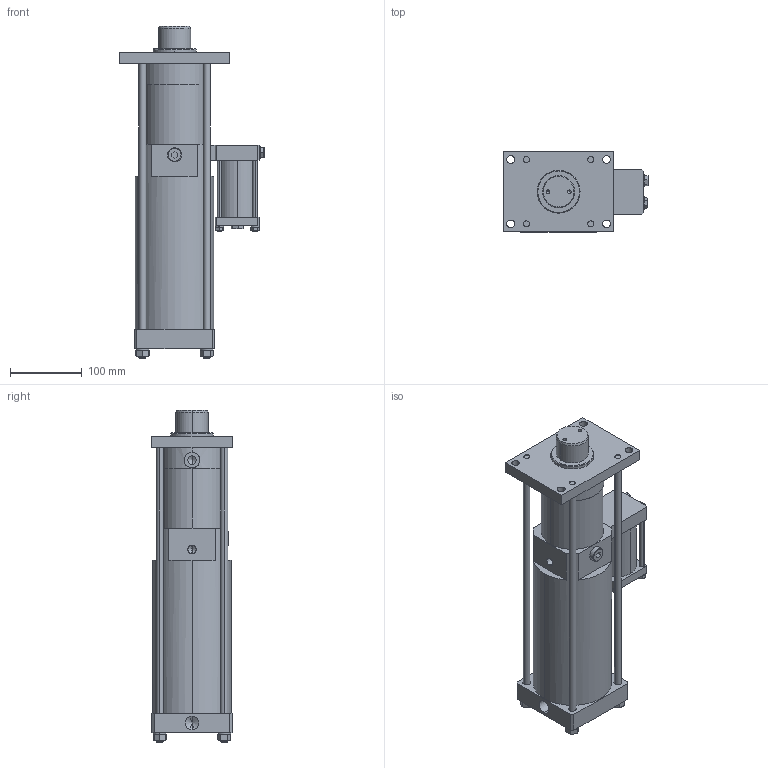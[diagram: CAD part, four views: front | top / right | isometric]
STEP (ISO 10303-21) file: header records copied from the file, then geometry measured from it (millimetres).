
FILE_DESCRIPTION (( 'STEP AP214' ), '1' );
FILE_NAME ('PCS4 100451.STEP', '2016-02-19T10:12:07', ( 'Admin' ), ( '' ), 'SwSTEP 2.0', 'SolidWorks 2015', '' );
FILE_SCHEMA (( 'AUTOMOTIVE_DESIGN' ));
Length unit declared in the file: millimetre
Products named in the file (8): hexagon nut style 1_is_IS 1364-3 - M10-W-N; spring lock washer 3063_is_IS 3063- 10-A; hexagon nut style 1_is_IS 1364-3 - M6-W-N; spring lock washer 3063_is_IS 3063- 6-A; hexagon fit bolt_is_IS 3640 - M8 x 25 x 14.5-N; plain washer (type a)_is_IS 2016 A- 9; PCS4 10045_PCS4 10045 VC13; PCS4 100451
Assembly tree (21 placements, depth 2):
  PCS4 100451
    PCS4 10045_PCS4 10045 VC13
    plain washer (type a)_is_IS 2016 A- 9  x2
    hexagon fit bolt_is_IS 3640 - M8 x 25 x 14.5-N  x2
    spring lock washer 3063_is_IS 3063- 6-A  x4
    hexagon nut style 1_is_IS 1364-3 - M6-W-N  x4
    spring lock washer 3063_is_IS 3063- 10-A  x4
    hexagon nut style 1_is_IS 1364-3 - M10-W-N  x4
Bounding box: 202.6 x 112 x 464 mm (x, y, z)
Volume: 4316454.3 mm3; surface area: 325416.7 mm2
Topology: 22 solids, 22 shells, 682 faces, 1645 edges, 1031 vertices
Faces by surface type: plane 288, cylinder 208, cone 138, bspline 48
Entity records: 11012 total; most frequent: CARTESIAN_POINT 2465, DIRECTION 1767, ORIENTED_EDGE 1642, EDGE_CURVE 821, AXIS2_PLACEMENT_3D 688, VERTEX_POINT 529, EDGE_LOOP 410, LINE 391
